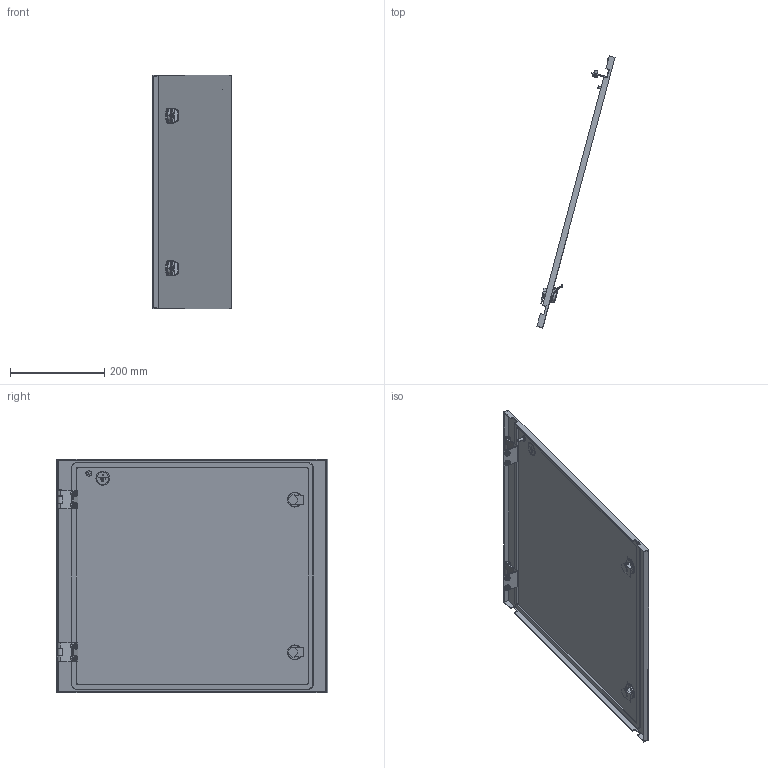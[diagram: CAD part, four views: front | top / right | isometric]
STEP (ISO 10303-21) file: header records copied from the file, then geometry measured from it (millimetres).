
FILE_DESCRIPTION (( 'STEP AP214' ), '1' );
FILE_NAME ('FO-00-ESD-050-060 Äâåðü ñåêöèîííàÿ âíåøíÿÿ 500õ600 ìì.STEP', '2025-08-20T06:22:57', ( '' ), ( '' ), 'SwSTEP 2.0', 'SolidWorks 2023', '' );
FILE_SCHEMA (( 'AUTOMOTIVE_DESIGN' ));
Length unit declared in the file: millimetre
Products named in the file (4): Дверь секционная внешняя 500х600 мм.STEP; FO-00-ESD-050-060 Дверь секционная внешняя 500х600 мм; Петля.STEP; FO-00-ESD-050-060 Дверь секционная внешняя 500х600 мм.STEP
Assembly tree (4 placements, depth 3):
  FO-00-ESD-050-060 Дверь секционная внешняя 500х600 мм
    FO-00-ESD-050-060 Дверь секционная внешняя 500х600 мм.STEP
      Дверь секционная внешняя 500х600 мм.STEP
      Петля.STEP  x2
Bounding box: 165.93 x 578 x 496 mm (x, y, z)
Volume: 758643.7 mm3; surface area: 678202.3 mm2
Topology: 3 solids, 12 shells, 707 faces, 1809 edges, 1168 vertices
Faces by surface type: plane 343, cylinder 268, torus 34, cone 32, bspline 30
Entity records: 20694 total; most frequent: CARTESIAN_POINT 5778, ORIENTED_EDGE 3108, DIRECTION 3078, EDGE_CURVE 1554, AXIS2_PLACEMENT_3D 1056, VERTEX_POINT 1006, VECTOR 966, LINE 966
